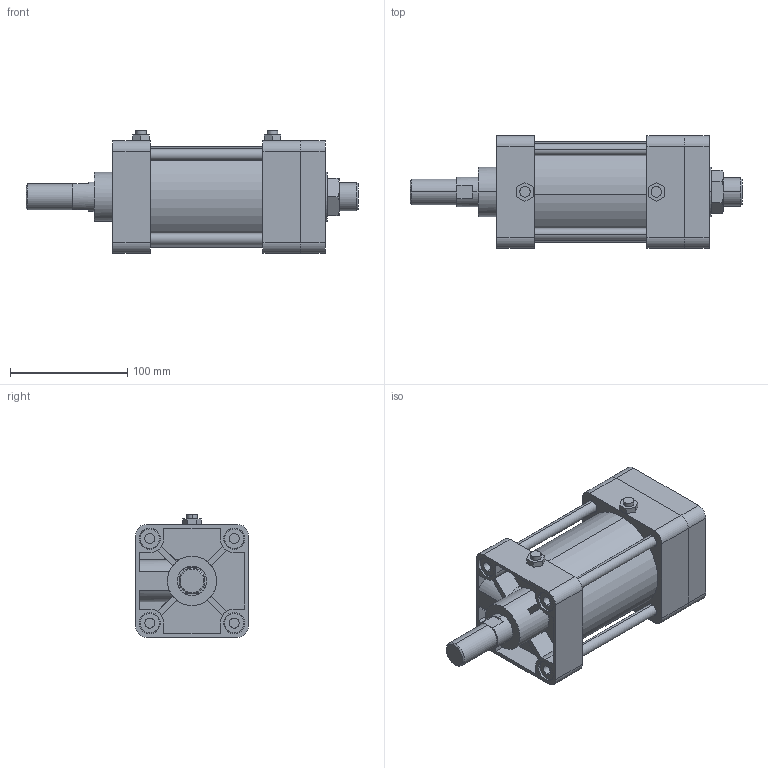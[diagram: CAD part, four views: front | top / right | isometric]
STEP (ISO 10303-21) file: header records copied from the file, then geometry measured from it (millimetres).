
FILE_DESCRIPTION (( 'STEP AP203' ), '1' );
FILE_NAME ('KGA2-80#-50-N.STEP', '2016-04-14T07:44:51', ( '' ), ( '' ), 'SwSTEP 2.0', 'SolidWorks 2014', '' );
FILE_SCHEMA (( 'CONFIG_CONTROL_DESIGN' ));
Length unit declared in the file: millimetre
Products named in the file (7): KGLH2-80-50; KG2-80-After; KGA2-80#-50-N; KGA2-80-After
Assembly tree (16 placements, depth 2):
  KGA2-80#-50-N
    KG2-80-After
    KGLH2-80-50
    (unnamed)
    (unnamed)  x4
    (unnamed)  x8
    KGA2-80-After
Bounding box: 283 x 96 x 104.3 mm (x, y, z)
Volume: 1258424.5 mm3; surface area: 201550.7 mm2
Topology: 16 solids, 16 shells, 348 faces, 822 edges, 524 vertices
Faces by surface type: plane 148, cylinder 134, torus 38, cone 28
Entity records: 8905 total; most frequent: CARTESIAN_POINT 1603, DIRECTION 1386, ORIENTED_EDGE 1264, EDGE_CURVE 632, AXIS2_PLACEMENT_3D 517, VERTEX_POINT 414, VECTOR 352, LINE 352
